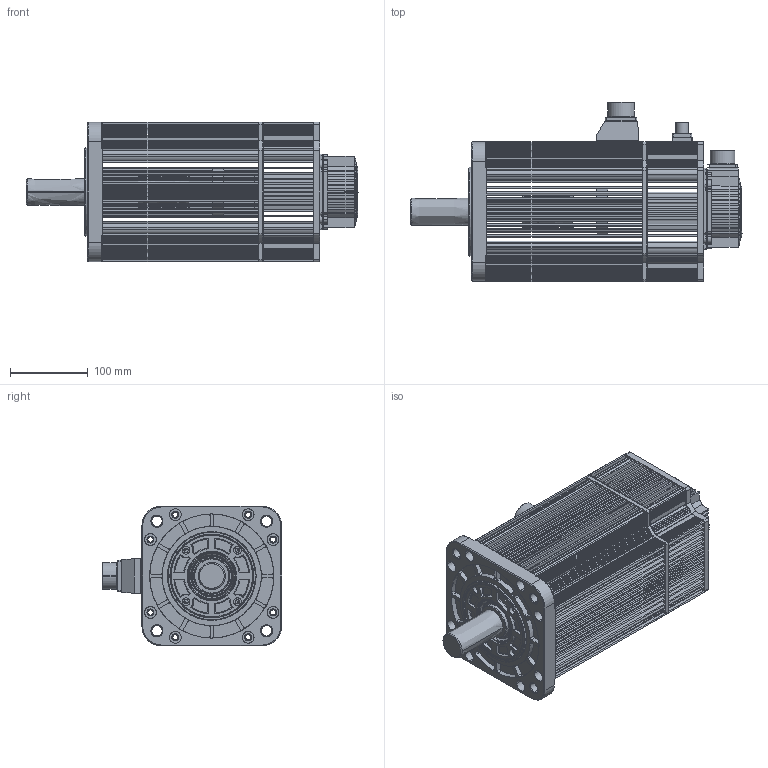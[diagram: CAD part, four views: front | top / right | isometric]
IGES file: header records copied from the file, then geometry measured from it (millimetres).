
Start section: SolidWorks IGES file using analytic representation for surfaces
Global section: file name: E:\est2012\d\17年任务\2017.01.04 外海需求电机3D图升级归档\EMG-50AFA24\EMG-50(APA24,ASA24,AFA24)with holding brake.IGS,15HSolidWorks; native system: 2015; preprocessor: SolidWorks 2015; author: hongyunting; date: 170106.145429; units: millimetre
Bounding box: 428.2 x 231 x 180 mm (x, y, z)
Surface area: 532599 mm2 (no closed solid volume)
Topology: 0 solids, 0 shells, 2022 faces, 26116 edges, 26116 vertices
Faces by surface type: revolution 1166, bspline 856
